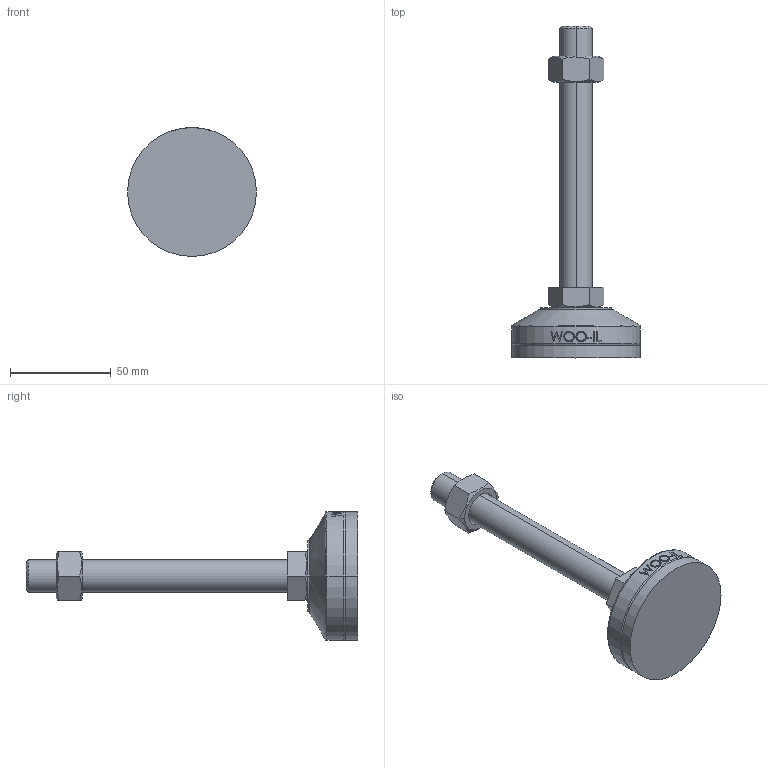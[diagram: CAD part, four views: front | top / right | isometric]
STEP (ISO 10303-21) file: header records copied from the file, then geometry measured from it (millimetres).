
FILE_DESCRIPTION (( 'STEP AP214' ), '1' );
FILE_NAME ('MFR64-M16-130.step', '2021-01-13T05:36:37', ( '' ), ( '' ), 'SwSTEP 2.0', 'SolidWorks 2019', '' );
FILE_SCHEMA (( 'AUTOMOTIVE_DESIGN' ));
Length unit declared in the file: millimetre
Products named in the file (2): MFR64-M16-130
Bounding box: 64 x 165 x 64 mm (x, y, z)
Volume: 103616.7 mm3; surface area: 26951.4 mm2
Topology: 4 solids, 4 shells, 103 faces, 235 edges, 150 vertices
Faces by surface type: plane 49, cylinder 18, bspline 16, cone 14, torus 6
Entity records: 4393 total; most frequent: CARTESIAN_POINT 2120, ORIENTED_EDGE 470, DIRECTION 417, EDGE_CURVE 235, AXIS2_PLACEMENT_3D 159, VERTEX_POINT 150, EDGE_LOOP 115, ADVANCED_FACE 103
